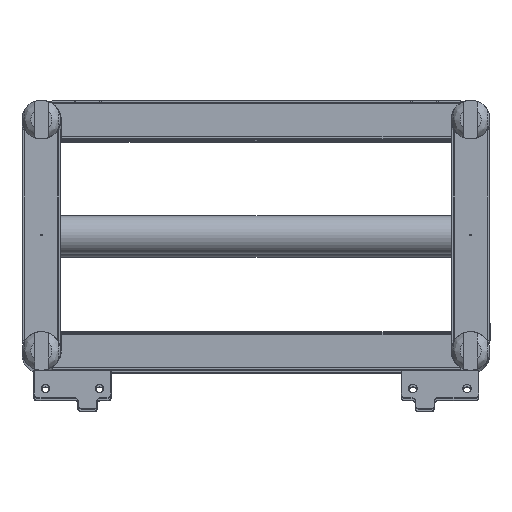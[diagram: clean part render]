
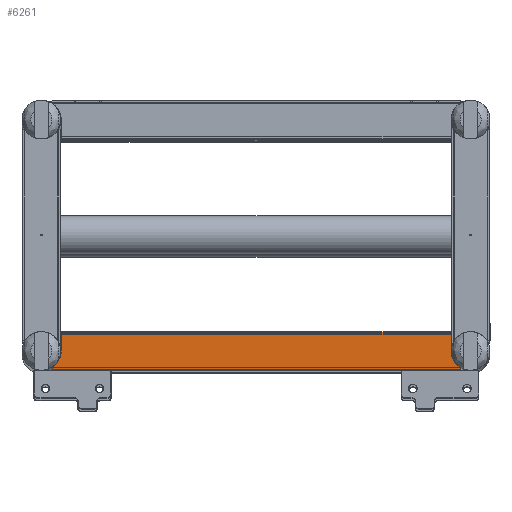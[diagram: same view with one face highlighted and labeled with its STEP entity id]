
A CAD part, top view. The second image highlights one B-rep face of the part: STEP entity #6261.
In plain terms, the highlighted planar face has unit normal (0, 0, 1) as drawn and (-1, 0, 0) by its records, which use the part's own axes.
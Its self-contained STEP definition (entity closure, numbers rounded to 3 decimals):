
#603=PLANE('',#7063);
#825=FACE_OUTER_BOUND('',#1170,.T.);
#1170=EDGE_LOOP('',(#4831,#4832,#4833,#4834,#4835,#4836,#4837,#4838));
#1591=LINE('',#10265,#2092);
#1602=LINE('',#10297,#2103);
#1609=LINE('',#10324,#2110);
#1625=LINE('',#10357,#2126);
#1626=LINE('',#10360,#2127);
#1627=LINE('',#10361,#2128);
#2092=VECTOR('',#8141,10.);
#2103=VECTOR('',#8164,10.);
#2110=VECTOR('',#8191,10.);
#2126=VECTOR('',#8229,10.);
#2127=VECTOR('',#8232,10.);
#2128=VECTOR('',#8233,10.);
#2526=CIRCLE('',#7028,25.);
#2538=CIRCLE('',#7044,25.);
#2892=VERTEX_POINT('',#10240);
#2893=VERTEX_POINT('',#10241);
#2903=VERTEX_POINT('',#10263);
#2917=VERTEX_POINT('',#10294);
#2918=VERTEX_POINT('',#10296);
#2920=VERTEX_POINT('',#10302);
#2928=VERTEX_POINT('',#10323);
#2935=VERTEX_POINT('',#10359);
#3577=EDGE_CURVE('',#2892,#2893,#2526,.T.);
#3588=EDGE_CURVE('',#2893,#2903,#1591,.T.);
#3604=EDGE_CURVE('',#2918,#2917,#1602,.T.);
#3607=EDGE_CURVE('',#2917,#2920,#2538,.T.);
#3618=EDGE_CURVE('',#2892,#2928,#1609,.T.);
#3636=EDGE_CURVE('',#2903,#2918,#1625,.T.);
#3637=EDGE_CURVE('',#2920,#2935,#1626,.T.);
#3638=EDGE_CURVE('',#2935,#2928,#1627,.T.);
#4831=ORIENTED_EDGE('',*,*,#3588,.T.);
#4832=ORIENTED_EDGE('',*,*,#3636,.T.);
#4833=ORIENTED_EDGE('',*,*,#3604,.T.);
#4834=ORIENTED_EDGE('',*,*,#3607,.T.);
#4835=ORIENTED_EDGE('',*,*,#3637,.T.);
#4836=ORIENTED_EDGE('',*,*,#3638,.T.);
#4837=ORIENTED_EDGE('',*,*,#3618,.F.);
#4838=ORIENTED_EDGE('',*,*,#3577,.T.);
#6261=ADVANCED_FACE('',(#825),#603,.T.);
#7028=AXIS2_PLACEMENT_3D('',#10242,#8120,#8121);
#7044=AXIS2_PLACEMENT_3D('',#10303,#8170,#8171);
#7063=AXIS2_PLACEMENT_3D('',#10358,#8230,#8231);
#8120=DIRECTION('center_axis',(1.,0.,0.));
#8121=DIRECTION('ref_axis',(0.,0.,-1.));
#8141=DIRECTION('',(0.,-1.,0.));
#8164=DIRECTION('',(0.,1.,0.));
#8170=DIRECTION('center_axis',(1.,0.,0.));
#8171=DIRECTION('ref_axis',(0.,0.,-1.));
#8191=DIRECTION('',(0.,1.,0.));
#8229=DIRECTION('',(0.,0.,1.));
#8230=DIRECTION('center_axis',(-1.,0.,0.));
#8231=DIRECTION('ref_axis',(0.,-1.,0.));
#8232=DIRECTION('',(0.,1.,0.));
#8233=DIRECTION('',(0.,0.,-1.));
#10240=CARTESIAN_POINT('',(-25.,21.328,0.));
#10241=CARTESIAN_POINT('',(-25.,0.005,11.95));
#10242=CARTESIAN_POINT('Origin',(-25.,0.005,-13.05));
#10263=CARTESIAN_POINT('',(-25.,-24.5,11.95));
#10265=CARTESIAN_POINT('',(-25.,-0.25,11.95));
#10294=CARTESIAN_POINT('',(-25.,0.,515.955));
#10296=CARTESIAN_POINT('',(-25.,-24.5,515.955));
#10297=CARTESIAN_POINT('',(-25.,12.25,515.955));
#10302=CARTESIAN_POINT('',(-25.,20.824,527.9));
#10303=CARTESIAN_POINT('Origin',(-25.,-0.5,540.95));
#10323=CARTESIAN_POINT('',(-25.,24.5,0.));
#10324=CARTESIAN_POINT('',(-25.,12.25,0.));
#10357=CARTESIAN_POINT('',(-25.,-24.5,0.));
#10358=CARTESIAN_POINT('Origin',(-25.,24.5,0.));
#10359=CARTESIAN_POINT('',(-25.,24.5,527.9));
#10360=CARTESIAN_POINT('',(-25.,12.25,527.9));
#10361=CARTESIAN_POINT('',(-25.,24.5,0.));
